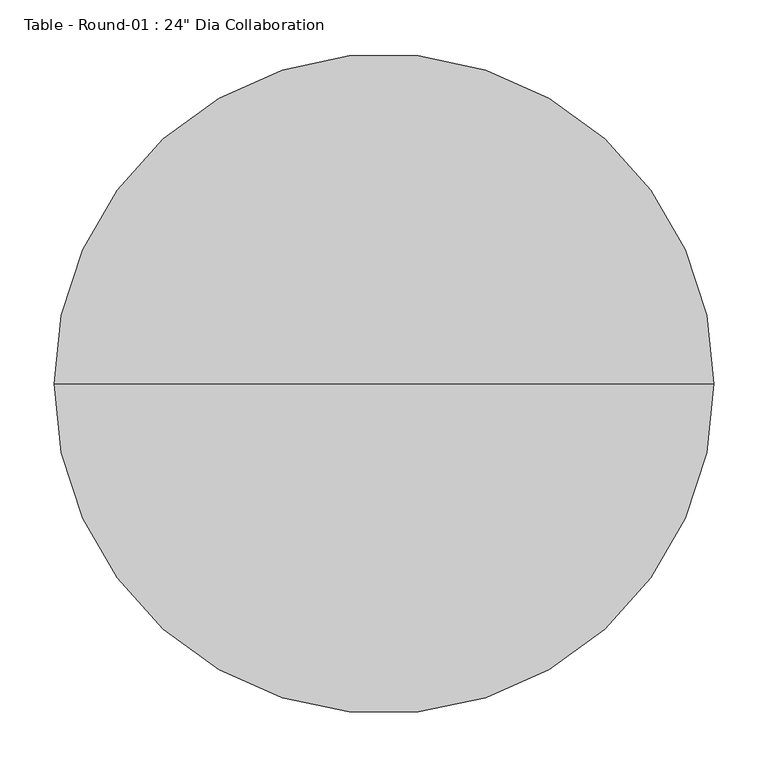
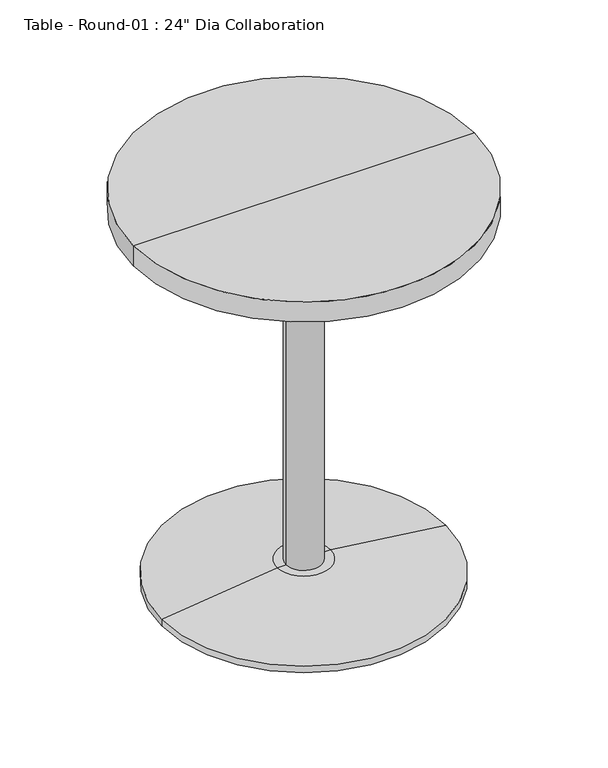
"""IFC4 building model written with IfcOpenShell, lengths in millimetres: furniture geometry."""

from ifc_helpers import new_model, si_unit, point, frame, origin, origin_2d, place, context, project, spatial, polyline, circle_curve, trimmed, segment, composite_curve, outline, extrude, source, transform, mapped, element, save
from ifc_brep_helpers import plane_surface, cylinder_surface, revolved_surface, advanced_brep


def furniture_4a67c233(model_context):
    return source(origin(), model_context, "Body", "SolidModel", [
        extrude(outline(composite_curve([segment(trimmed(circle_curve(origin_2d(), 31.75), [point((-31.75, 0.0))], [point((31.75, 0.0))], False, "CARTESIAN"), True, "CONTINUOUS"), segment(trimmed(circle_curve(origin_2d(), 31.75), [point((31.75, 0.0))], [point((-31.75, 0.0))], False, "CARTESIAN"), True, "CONTINUOUS")], self_intersect=False)), frame((0.0, 0.0, 38.1), z_axis=(0.0, 0.0, 1.0), x_axis=(1.0, 0.0, 0.0)), (0.0, 0.0, 1.0), 660.4),
        advanced_brep(
        [(304.8, 0.0, 698.5), (-304.8, 0.0, 698.5), (-304.8, 0.0, 736.6), (304.8, 0.0, 736.6), (0.0, 0.0, 698.5), (0.0, 0.0, 736.6)],
        [
            (0, 1, circle_curve(frame((0.0, 0.0, 698.5), z_axis=(0.0, 0.0, 1.0), x_axis=(-1.0, 0.0, 0.0)), 304.8)),
            (1, 2),
            (2, 3, circle_curve(frame((0.0, 0.0, 736.6), z_axis=(0.0, 0.0, -1.0), x_axis=(-1.0, 0.0, 0.0)), 304.8)),
            (3, 0),
            (1, 0, circle_curve(frame((0.0, 0.0, 698.5), z_axis=(0.0, 0.0, 1.0), x_axis=(-1.0, 0.0, 0.0)), 304.8)),
            (3, 2, circle_curve(frame((0.0, 0.0, 736.6), z_axis=(0.0, 0.0, -1.0), x_axis=(-1.0, 0.0, 0.0)), 304.8)),
            (4, 1),
            (0, 4),
            (2, 5),
            (5, 3),
        ],
        [
            cylinder_surface(frame((0.0, 0.0, 717.55), z_axis=(0.0, 0.0, -1.0), x_axis=(-1.0, 0.0, 0.0)), 304.8),
            plane_surface(frame((0.0, 0.0, 698.5), z_axis=(0.0, 0.0, -1.0), x_axis=(-1.0, 0.0, 0.0))),
            plane_surface(frame((0.0, 0.0, 736.6), z_axis=(0.0, 0.0, 1.0), x_axis=(-1.0, 0.0, 0.0))),
        ],
        [
            (0, [[1, 2, 3, 4]]),
            (0, [[5, -4, 6, -2]]),
            (1, [[7, -1, 8]]),
            (1, [[-8, -5, -7]]),
            (2, [[-3, 9, 10]]),
            (2, [[-6, -10, -9]]),
        ],
    ),
        advanced_brep(
        [(0.0, 0.0, 0.0), (-254.0, 0.0, 0.0), (254.0, 0.0, 0.0), (47.625, 0.0, 38.1), (-47.625, 0.0, 38.1), (0.0, 0.0, 38.1), (254.0, 0.0, 12.7), (-254.0, 0.0, 12.7)],
        [
            (0, 1),
            (1, 2, circle_curve(frame((0.0, 0.0, 0.0), z_axis=(0.0, 0.0, -1.0), x_axis=(-1.0, 0.0, 0.0)), 254.0)),
            (2, 0),
            (2, 1, circle_curve(frame((0.0, 0.0, 0.0), z_axis=(0.0, 0.0, -1.0), x_axis=(-1.0, 0.0, 0.0)), 254.0)),
            (3, 4, circle_curve(frame((0.0, 0.0, 38.1), z_axis=(0.0, 0.0, 1.0), x_axis=(-1.0, 0.0, 0.0)), 47.625)),
            (4, 5),
            (5, 3),
            (4, 3, circle_curve(frame((0.0, 0.0, 38.1), z_axis=(0.0, 0.0, 1.0), x_axis=(-1.0, 0.0, 0.0)), 47.625)),
            (6, 7, circle_curve(frame((0.0, 0.0, 12.7), z_axis=(0.0, 0.0, 1.0), x_axis=(-1.0, 0.0, 0.0)), 254.0)),
            (7, 4),
            (3, 6),
            (7, 6, circle_curve(frame((0.0, 0.0, 12.7), z_axis=(0.0, 0.0, 1.0), x_axis=(-1.0, 0.0, 0.0)), 254.0)),
            (1, 7),
            (6, 2),
        ],
        [
            plane_surface(frame((0.0, 0.0, 0.0), z_axis=(0.0, 0.0, -1.0), x_axis=(-1.0, 0.0, 0.0))),
            plane_surface(frame((0.0, 0.0, 38.1), z_axis=(0.0, 0.0, 1.0), x_axis=(-1.0, 0.0, 0.0))),
            revolved_surface(polyline([(-47.625, 0.0, 38.1), (-254.0, 0.0, 12.7)]), (0.0, 0.0, 215.9), (0.0, 0.0, -1.0)),
            cylinder_surface(frame((0.0, 0.0, 215.9), z_axis=(0.0, 0.0, -1.0), x_axis=(-1.0, 0.0, 0.0)), 254.0),
        ],
        [
            (0, [[1, 2, 3]]),
            (0, [[-3, 4, -1]]),
            (1, [[5, 6, 7]]),
            (1, [[8, -7, -6]]),
            (2, [[9, 10, -5, 11]]),
            (2, [[12, -11, -8, -10]]),
            (3, [[-2, 13, -9, 14]]),
            (3, [[-4, -14, -12, -13]]),
        ],
    ),
    ])


if __name__ == "__main__":
    model = new_model("IFC4")
    model_context = context("Model", 3, world=origin())
    ifc_project = project(units=[si_unit("LENGTHUNIT", "METRE", prefix="MILLI")], contexts=[model_context])
    site = spatial("IfcSite", under=ifc_project)
    building = spatial("IfcBuilding", under=site)
    placement = place(None, origin())
    furniture_shape = furniture_4a67c233(model_context)
    element("IfcFurniture", 1, ObjectType="Table - Round-01 : 24\" Dia Collaboration", at=placement, inside=building, context=model_context, shape_type="MappedRepresentation", body=[
        mapped(furniture_shape, transform((0.0, 0.0, 0.0), x_axis=(1.0, 0.0, 0.0), y_axis=(0.0, 1.0, 0.0), z_axis=(0.0, 0.0, 1.0))),
    ])
    save(model, "model.ifc")
